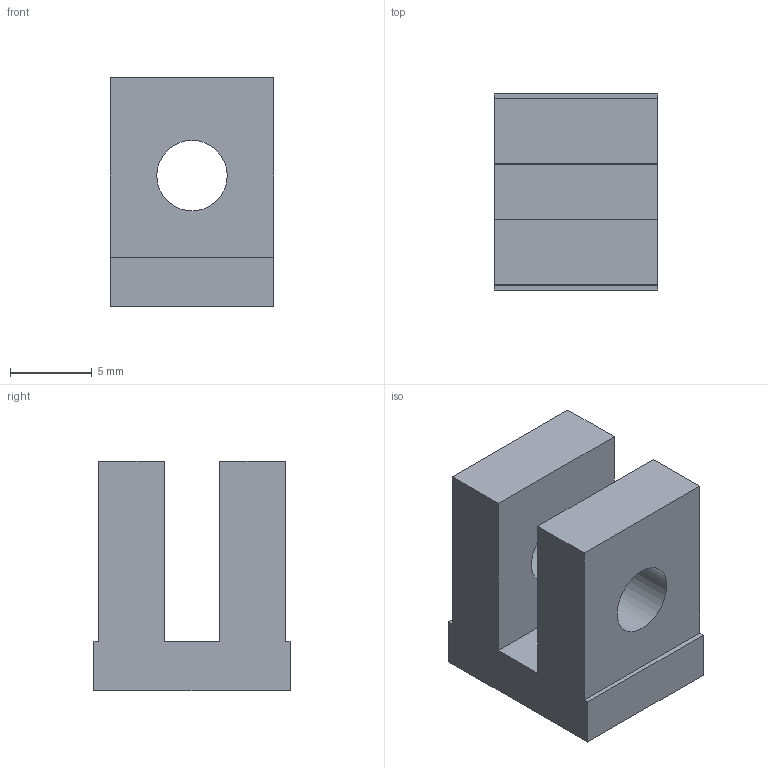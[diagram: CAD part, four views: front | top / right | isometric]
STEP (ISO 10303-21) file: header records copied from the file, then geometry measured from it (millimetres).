
FILE_DESCRIPTION(('Open CASCADE Model'),'2;1');
FILE_NAME('SCZ-POST','2026-11-15T22:39:10',('Author'),('Open CASCADE'), 'Open CASCADE STEP processor 8.0','build123d','Unknown');
FILE_SCHEMA(('AUTOMOTIVE_DESIGN { 1 0 10303 214 1 1 1 1 }'));
Length unit declared in the file: millimetre
Products named in the file (1): SCZ-POST
Bounding box: 10 x 12 x 14 mm (x, y, z)
Volume: 978.6 mm3; surface area: 1208.9 mm2
Topology: 1 solids, 1 shells, 24 faces, 54 edges, 36 vertices
Faces by surface type: plane 18, cylinder 6
Full cylindrical faces by diameter (mm): 3.4 x4, 4.3 x2
Entity records: 1394 total; most frequent: CARTESIAN_POINT 255, DIRECTION 212, LINE 130, VECTOR 130, ORIENTED_EDGE 108, PCURVE 108, DEFINITIONAL_REPRESENTATION 108, EDGE_CURVE 54
